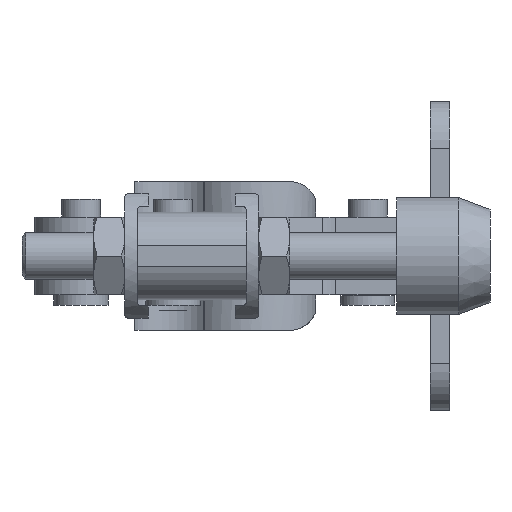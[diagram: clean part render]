
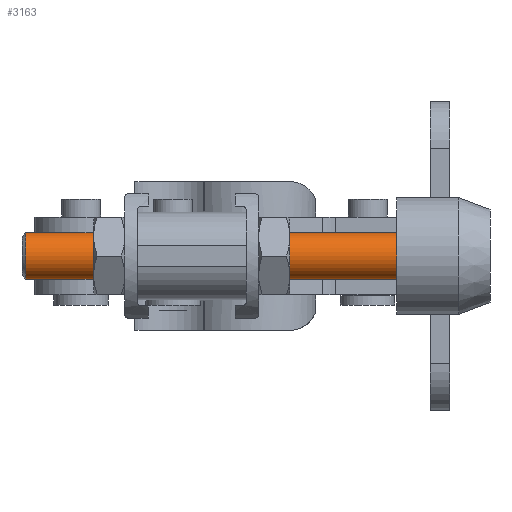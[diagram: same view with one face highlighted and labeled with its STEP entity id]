
A CAD part, left-side view. The second image highlights one B-rep face of the part: STEP entity #3163.
In plain terms, the highlighted cylindrical face has radius 3 mm (diameter 6 mm), a partial arc.
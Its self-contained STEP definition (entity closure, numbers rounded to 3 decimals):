
#1717 = EDGE_CURVE( '', #3959, #3393, #4980, .T. );
#2713 = VERTEX_POINT( '', #6099 );
#3093 = VERTEX_POINT( '', #6515 );
#3163 = ADVANCED_FACE( '', ( #6595 ), #6596, .T. );
#3393 = VERTEX_POINT( '', #6850 );
#3897 = EDGE_CURVE( '', #3093, #2713, #7406, .T. );
#3959 = VERTEX_POINT( '', #7473 );
#4165 = EDGE_CURVE( '', #3093, #3959, #7696, .T. );
#4873 = EDGE_CURVE( '', #3393, #2713, #8475, .T. );
#4980 = CIRCLE( '', #8593, 3. );
#6099 = CARTESIAN_POINT( '', ( -55.4, 6.8, 3. ) );
#6515 = CARTESIAN_POINT( '', ( -55.4, 6.8, -3. ) );
#6595 = FACE_OUTER_BOUND( '', #10976, .T. );
#6596 = CYLINDRICAL_SURFACE( '', #10977, 3. );
#6850 = CARTESIAN_POINT( '', ( -55.4, 54.4, 3. ) );
#7406 = CIRCLE( '', #12317, 3. );
#7473 = CARTESIAN_POINT( '', ( -55.4, 54.4, -3. ) );
#7696 = LINE( '', #12775, #12776 );
#8475 = LINE( '', #13895, #13896 );
#8593 = AXIS2_PLACEMENT_3D( '', #14032, #14033, #14034 );
#10976 = EDGE_LOOP( '', ( #16056, #16057, #16058, #16059 ) );
#10977 = AXIS2_PLACEMENT_3D( '', #16060, #16061, #16062 );
#12317 = AXIS2_PLACEMENT_3D( '', #16979, #16980, #16981 );
#12775 = CARTESIAN_POINT( '', ( -55.4, 30.6, -3. ) );
#12776 = VECTOR( '', #17295, 1. );
#13895 = CARTESIAN_POINT( '', ( -55.4, 30.6, 3. ) );
#13896 = VECTOR( '', #18113, 1. );
#14032 = CARTESIAN_POINT( '', ( -55.4, 54.4, 0. ) );
#14033 = DIRECTION( '', ( 0., 1., 0. ) );
#14034 = DIRECTION( '', ( 0., 0., -1. ) );
#16056 = ORIENTED_EDGE( '', *, *, #4165, .F. );
#16057 = ORIENTED_EDGE( '', *, *, #3897, .T. );
#16058 = ORIENTED_EDGE( '', *, *, #4873, .F. );
#16059 = ORIENTED_EDGE( '', *, *, #1717, .F. );
#16060 = CARTESIAN_POINT( '', ( -55.4, 30.6, 0. ) );
#16061 = DIRECTION( '', ( 0., -1., 0. ) );
#16062 = DIRECTION( '', ( 0., 0., -1. ) );
#16979 = CARTESIAN_POINT( '', ( -55.4, 6.8, 0. ) );
#16980 = DIRECTION( '', ( 0., 1., 0. ) );
#16981 = DIRECTION( '', ( 0., 0., -1. ) );
#17295 = DIRECTION( '', ( 0., 1., 0. ) );
#18113 = DIRECTION( '', ( 0., -1., 0. ) );
